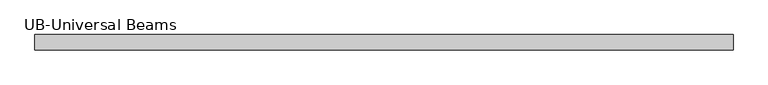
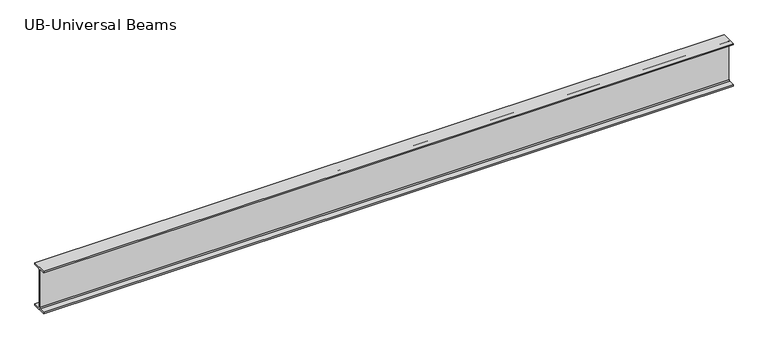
"""IFC4 building model written with IfcOpenShell, lengths in millimetres: beam geometry."""

from ifc_helpers import new_model, si_unit, point, frame, frame_2d, origin, place, context, project, spatial, polyline, circle_curve, trimmed, segment, composite_curve, outline, extrude, source, transform, mapped, element, save


def ub_universal_beams_e915e172(model_context):
    return source(origin(), model_context, "Body", "SweptSolid", [
        extrude(outline(composite_curve([segment(polyline([(76.9, -214.0), (76.9, -229.0), (-76.9, -229.0), (-76.9, -214.0), (-14.7, -214.0)]), True, "CONTINUOUS"), segment(trimmed(circle_curve(frame_2d((-14.7, -203.8)), 10.2), [point((-14.7, -214.0))], [point((-4.5, -203.8))], True, "CARTESIAN"), True, "CONTINUOUS"), segment(polyline([(-4.5, -203.8), (-4.5, 203.8)]), True, "CONTINUOUS"), segment(trimmed(circle_curve(frame_2d((-14.7, 203.8)), 10.2), [point((-4.5, 203.8))], [point((-14.7, 214.0))], True, "CARTESIAN"), True, "CONTINUOUS"), segment(polyline([(-14.7, 214.0), (-76.9, 214.0), (-76.9, 229.0), (76.9, 229.0), (76.9, 214.0), (14.7, 214.0)]), True, "CONTINUOUS"), segment(trimmed(circle_curve(frame_2d((14.7, 203.8)), 10.2), [point((14.7, 214.0))], [point((4.5, 203.8))], True, "CARTESIAN"), True, "CONTINUOUS"), segment(polyline([(4.5, 203.8), (4.5, -203.8)]), True, "CONTINUOUS"), segment(trimmed(circle_curve(frame_2d((14.7, -203.8)), 10.2), [point((4.5, -203.8))], [point((14.7, -214.0))], True, "CARTESIAN"), True, "CONTINUOUS"), segment(polyline([(14.7, -214.0), (76.9, -214.0)]), True, "CONTINUOUS")], self_intersect=False)), frame((-3499.1, 0.0, 0.0), z_axis=(1.0, 0.0, 0.0), x_axis=(0.0, 1.0, 0.0)), (0.0, 0.0, 1.0), 7028.5),
    ])


if __name__ == "__main__":
    model = new_model("IFC4")
    model_context = context("Model", 3, world=origin())
    ifc_project = project(units=[si_unit("LENGTHUNIT", "METRE", prefix="MILLI")], contexts=[model_context])
    site = spatial("IfcSite", under=ifc_project)
    building = spatial("IfcBuilding", under=site)
    placement = place(None, origin())
    ub_universal_beams_shape = ub_universal_beams_e915e172(model_context)
    element("IfcBeam", 1, ObjectType="UB-Universal Beams : UB 18\" x 6\" x 2 1/2\"", at=placement, inside=building, context=model_context, shape_type="MappedRepresentation", body=[
        mapped(ub_universal_beams_shape, transform((0.0, 0.0, 0.0), x_axis=(1.0, 0.0, 0.0), y_axis=(0.0, 1.0, 0.0), z_axis=(0.0, 0.0, 1.0))),
    ])
    save(model, "model.ifc")
